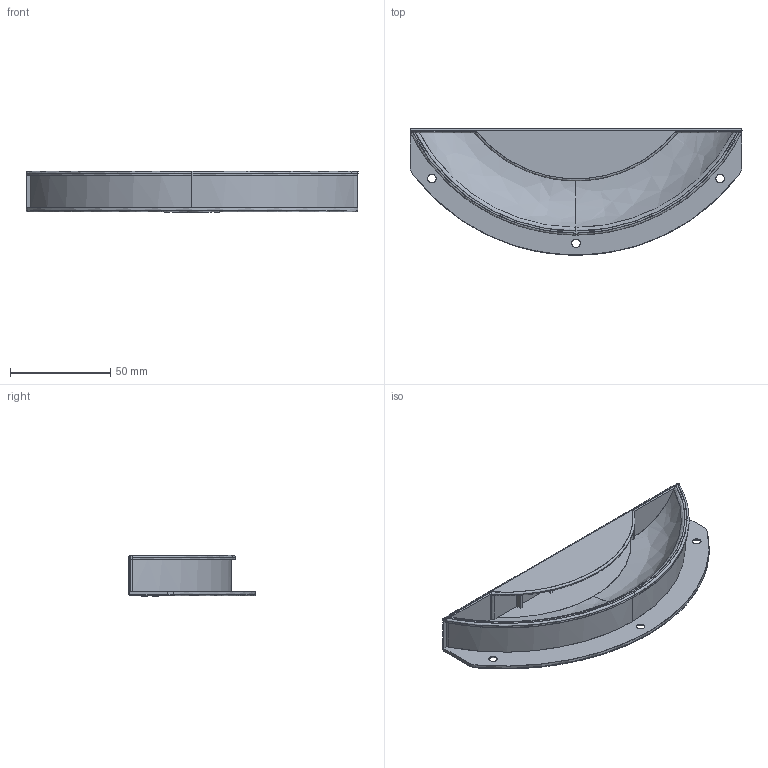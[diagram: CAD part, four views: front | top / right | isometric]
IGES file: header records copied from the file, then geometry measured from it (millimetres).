
Start section: C
Global section: file name: 8175-166.igs; native system: By Siemens PLM Incorporated; preprocessor: XPlus GENERIC/IGES 16.0.42; author: Author; organization: Title; date: 20231119.122705; units: millimetre
Bounding box: 165.5 x 62.98 x 20.5 mm (x, y, z)
Surface area: 47235.1 mm2 (no closed solid volume)
Topology: 0 solids, 0 shells, 320 faces, 2044 edges, 2042 vertices
Faces by surface type: bspline 320
